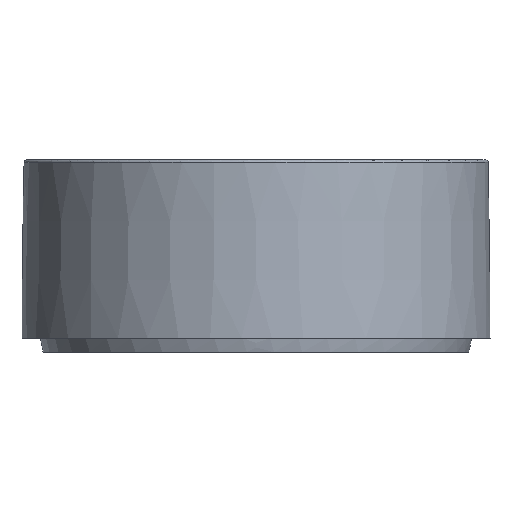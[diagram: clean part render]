
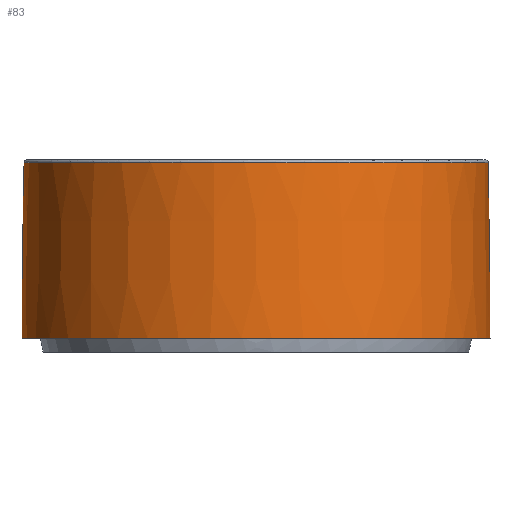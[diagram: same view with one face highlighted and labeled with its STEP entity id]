
A CAD part, left-side view. The second image highlights one B-rep face of the part: STEP entity #83.
In plain terms, the highlighted free-form (B-spline) face has degree [3, 2] with [4, 9] control points.
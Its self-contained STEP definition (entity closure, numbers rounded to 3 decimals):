
#83=ADVANCED_FACE('',(#152),#995,.T.);
#152=FACE_OUTER_BOUND('',#223,.T.);
#223=EDGE_LOOP('',(#504,#505,#506,#507));
#504=ORIENTED_EDGE('',*,*,#675,.T.);
#505=ORIENTED_EDGE('',*,*,#669,.F.);
#506=ORIENTED_EDGE('',*,*,#668,.F.);
#507=ORIENTED_EDGE('',*,*,#669,.T.);
#668=EDGE_CURVE('',#921,#921,#819,.T.);
#669=EDGE_CURVE('',#921,#927,#820,.T.);
#675=EDGE_CURVE('',#927,#927,#826,.T.);
#819=(
BOUNDED_CURVE()
B_SPLINE_CURVE(2,(#4340,#4341,#4342,#4343,#4344,#4345,#4346,#4347,#4348),
 .UNSPECIFIED.,.T.,.F.)
B_SPLINE_CURVE_WITH_KNOTS((3,2,2,2,3),(-2000.,-1500.,-1000.,-500.,0.),
 .UNSPECIFIED.)
CURVE()
GEOMETRIC_REPRESENTATION_ITEM()
RATIONAL_B_SPLINE_CURVE((1.,0.707,1.,0.707,1.,0.707,
1.,0.707,1.))
REPRESENTATION_ITEM('')
);
#820=(
BOUNDED_CURVE()
B_SPLINE_CURVE(3,(#4349,#4350,#4351,#4352),.UNSPECIFIED.,.F.,.F.)
B_SPLINE_CURVE_WITH_KNOTS((4,4),(15.002,202.067),
 .UNSPECIFIED.)
CURVE()
GEOMETRIC_REPRESENTATION_ITEM()
RATIONAL_B_SPLINE_CURVE((1.,1.,1.,1.))
REPRESENTATION_ITEM('')
);
#826=(
BOUNDED_CURVE()
B_SPLINE_CURVE(2,(#4387,#4388,#4389,#4390,#4391,#4392,#4393,#4394,#4395),
 .UNSPECIFIED.,.T.,.F.)
B_SPLINE_CURVE_WITH_KNOTS((3,2,2,2,3),(0.,384.117,768.233,
1152.35,1536.467),.UNSPECIFIED.)
CURVE()
GEOMETRIC_REPRESENTATION_ITEM()
RATIONAL_B_SPLINE_CURVE((1.,0.707,1.,0.707,1.,0.707,
1.,0.707,1.))
REPRESENTATION_ITEM('')
);
#921=VERTEX_POINT('',#2924);
#927=VERTEX_POINT('',#2930);
#995=(
BOUNDED_SURFACE()
B_SPLINE_SURFACE(3,2,((#2718,#2719,#2720,#2721,#2722,#2723,#2724,#2725,
#2726),(#2727,#2728,#2729,#2730,#2731,#2732,#2733,#2734,#2735),(#2736,#2737,
#2738,#2739,#2740,#2741,#2742,#2743,#2744),(#2745,#2746,#2747,#2748,#2749,
#2750,#2751,#2752,#2753)),.UNSPECIFIED.,.F.,.F.,.F.)
B_SPLINE_SURFACE_WITH_KNOTS((4,4),(3,2,2,2,3),(0.,205.03),(-2000.,
-1500.,-1000.,-500.,0.),.UNSPECIFIED.)
GEOMETRIC_REPRESENTATION_ITEM()
RATIONAL_B_SPLINE_SURFACE(((1.,0.707,1.,0.707,1.,
0.707,1.,0.707,1.),(1.,0.707,1.,0.707,
1.,0.707,1.,0.707,1.),(1.,0.707,1.,
0.707,1.,0.707,1.,0.707,1.),(1.,0.707,
1.,0.707,1.,0.707,1.,0.707,1.)))
REPRESENTATION_ITEM('')
SURFACE()
);
#2718=CARTESIAN_POINT('',(3268.411,-195.667,-205.));
#2719=CARTESIAN_POINT('',(3268.411,54.333,-205.));
#2720=CARTESIAN_POINT('',(3018.411,54.333,-205.));
#2721=CARTESIAN_POINT('',(2768.411,54.333,-205.));
#2722=CARTESIAN_POINT('',(2768.411,-195.667,-205.));
#2723=CARTESIAN_POINT('',(2768.411,-445.667,-205.));
#2724=CARTESIAN_POINT('',(3018.411,-445.667,-205.));
#2725=CARTESIAN_POINT('',(3268.411,-445.667,-205.));
#2726=CARTESIAN_POINT('',(3268.411,-195.667,-205.));
#2727=CARTESIAN_POINT('',(3267.577,-195.667,-136.667));
#2728=CARTESIAN_POINT('',(3267.577,53.5,-136.667));
#2729=CARTESIAN_POINT('',(3018.411,53.5,-136.667));
#2730=CARTESIAN_POINT('',(2769.244,53.5,-136.667));
#2731=CARTESIAN_POINT('',(2769.244,-195.667,-136.667));
#2732=CARTESIAN_POINT('',(2769.244,-444.833,-136.667));
#2733=CARTESIAN_POINT('',(3018.411,-444.833,-136.667));
#2734=CARTESIAN_POINT('',(3267.577,-444.833,-136.667));
#2735=CARTESIAN_POINT('',(3267.577,-195.667,-136.667));
#2736=CARTESIAN_POINT('',(3266.744,-195.667,-68.333));
#2737=CARTESIAN_POINT('',(3266.744,52.667,-68.333));
#2738=CARTESIAN_POINT('',(3018.411,52.667,-68.333));
#2739=CARTESIAN_POINT('',(2770.077,52.667,-68.333));
#2740=CARTESIAN_POINT('',(2770.077,-195.667,-68.333));
#2741=CARTESIAN_POINT('',(2770.077,-444.,-68.333));
#2742=CARTESIAN_POINT('',(3018.411,-444.,-68.333));
#2743=CARTESIAN_POINT('',(3266.744,-444.,-68.333));
#2744=CARTESIAN_POINT('',(3266.744,-195.667,-68.333));
#2745=CARTESIAN_POINT('',(3265.911,-195.667,0.));
#2746=CARTESIAN_POINT('',(3265.911,51.833,0.));
#2747=CARTESIAN_POINT('',(3018.411,51.833,0.));
#2748=CARTESIAN_POINT('',(2770.911,51.833,0.));
#2749=CARTESIAN_POINT('',(2770.911,-195.667,0.));
#2750=CARTESIAN_POINT('',(2770.911,-443.167,0.));
#2751=CARTESIAN_POINT('',(3018.411,-443.167,0.));
#2752=CARTESIAN_POINT('',(3265.911,-443.167,0.));
#2753=CARTESIAN_POINT('',(3265.911,-195.667,0.));
#2924=CARTESIAN_POINT('',(3268.228,-195.667,-190.));
#2930=CARTESIAN_POINT('',(3265.947,-195.667,-2.963));
#4340=CARTESIAN_POINT('',(3268.228,-195.667,-190.));
#4341=CARTESIAN_POINT('',(3268.228,54.15,-190.));
#4342=CARTESIAN_POINT('',(3018.411,54.15,-190.));
#4343=CARTESIAN_POINT('',(2768.594,54.15,-190.));
#4344=CARTESIAN_POINT('',(2768.594,-195.667,-190.));
#4345=CARTESIAN_POINT('',(2768.594,-445.484,-190.));
#4346=CARTESIAN_POINT('',(3018.411,-445.484,-190.));
#4347=CARTESIAN_POINT('',(3268.228,-445.484,-190.));
#4348=CARTESIAN_POINT('',(3268.228,-195.667,-190.));
#4349=CARTESIAN_POINT('',(3268.228,-195.667,-190.));
#4350=CARTESIAN_POINT('',(3267.467,-195.667,-127.654));
#4351=CARTESIAN_POINT('',(3266.707,-195.667,-65.309));
#4352=CARTESIAN_POINT('',(3265.947,-195.667,-2.963));
#4387=CARTESIAN_POINT('',(3265.947,-195.667,-2.963));
#4388=CARTESIAN_POINT('',(3265.947,51.869,-2.963));
#4389=CARTESIAN_POINT('',(3018.411,51.869,-2.963));
#4390=CARTESIAN_POINT('',(2770.875,51.869,-2.963));
#4391=CARTESIAN_POINT('',(2770.875,-195.667,-2.963));
#4392=CARTESIAN_POINT('',(2770.875,-443.203,-2.963));
#4393=CARTESIAN_POINT('',(3018.411,-443.203,-2.963));
#4394=CARTESIAN_POINT('',(3265.947,-443.203,-2.963));
#4395=CARTESIAN_POINT('',(3265.947,-195.667,-2.963));
